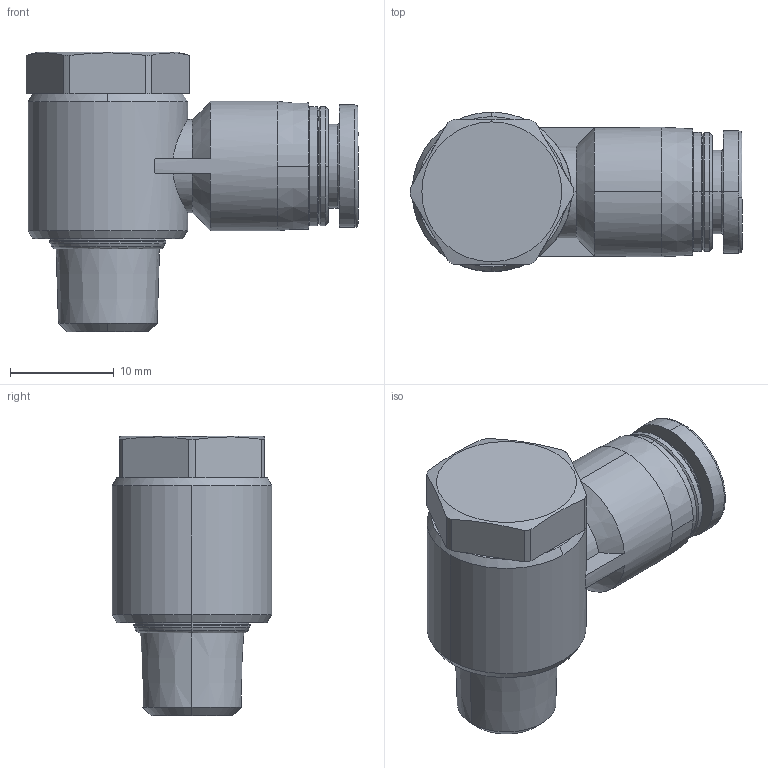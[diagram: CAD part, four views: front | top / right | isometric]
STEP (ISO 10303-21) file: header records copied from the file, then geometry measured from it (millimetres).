
FILE_DESCRIPTION (( 'STEP AP214' ), '1' );
FILE_NAME ('KQ2V06-01AS.STEP', '2023-03-06T10:05:25', ( 'Windows User' ), ( 'P R C' ), 'SwSTEP 2.0', 'SolidWorks 2019', '' );
FILE_SCHEMA (( 'AUTOMOTIVE_DESIGN' ));
Length unit declared in the file: millimetre
Products named in the file (1): KQ2V06-01AS
Bounding box: 32.05 x 15.4 x 27 mm (x, y, z)
Volume: 5297.9 mm3; surface area: 2625.9 mm2
Topology: 1 solids, 1 shells, 95 faces, 225 edges, 139 vertices
Faces by surface type: plane 32, cylinder 28, cone 27, bspline 8
Entity records: 3084 total; most frequent: CARTESIAN_POINT 850, DIRECTION 490, ORIENTED_EDGE 450, EDGE_CURVE 225, AXIS2_PLACEMENT_3D 203, VERTEX_POINT 139, CIRCLE 115, EDGE_LOOP 102
